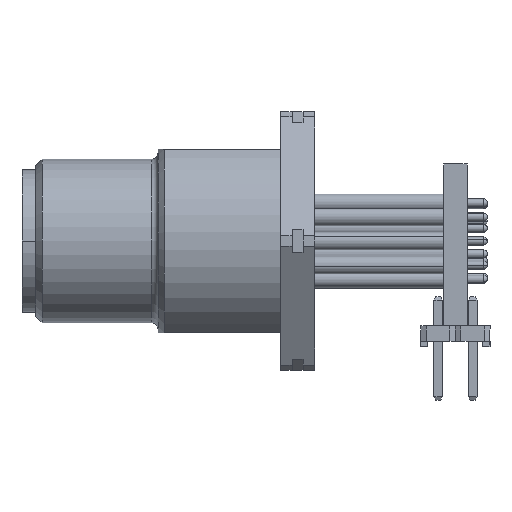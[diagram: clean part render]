
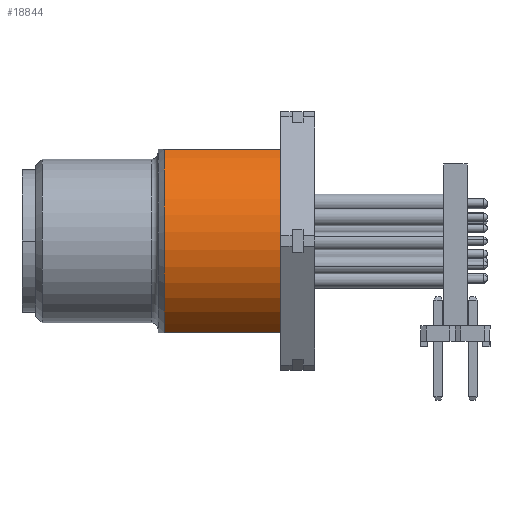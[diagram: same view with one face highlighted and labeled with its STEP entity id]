
A CAD part, left-side view. The second image highlights one B-rep face of the part: STEP entity #18844.
In plain terms, the highlighted cylindrical face has radius 7.6 mm (diameter 15.2 mm), a partial arc.
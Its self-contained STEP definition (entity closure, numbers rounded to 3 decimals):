
#414 = AXIS2_PLACEMENT_3D ( 'NONE', #5380, #16336, #6975 ) ;
#628 = CARTESIAN_POINT ( 'NONE',  ( -3.492, 20.5, -6.75 ) ) ;
#823 = CARTESIAN_POINT ( 'NONE',  ( -3.492, 20.5, 6.75 ) ) ;
#1734 = DIRECTION ( 'NONE',  ( 0., 0., -1. ) ) ;
#2159 = EDGE_CURVE ( 'NONE', #15930, #17699, #5502, .T. ) ;
#2593 = DIRECTION ( 'NONE',  ( 0., 0., -1. ) ) ;
#4071 = CARTESIAN_POINT ( 'NONE',  ( 0., 2.5, 0. ) ) ;
#4253 = DIRECTION ( 'NONE',  ( 0., -1., 0. ) ) ;
#4673 = VECTOR ( 'NONE', #18171, 1000. ) ;
#4784 = CARTESIAN_POINT ( 'NONE',  ( -3.492, 2.5, -6.75 ) ) ;
#5380 = CARTESIAN_POINT ( 'NONE',  ( 0., 11.035, 0. ) ) ;
#5502 = CIRCLE ( 'NONE', #10149, 7.6 ) ;
#6116 = ORIENTED_EDGE ( 'NONE', *, *, #2159, .F. ) ;
#6975 = DIRECTION ( 'NONE',  ( 0., 0., -1. ) ) ;
#7233 = LINE ( 'NONE', #628, #15558 ) ;
#7491 = VERTEX_POINT ( 'NONE', #8411 ) ;
#8411 = CARTESIAN_POINT ( 'NONE',  ( -3.492, 11.035, 6.75 ) ) ;
#8759 = CARTESIAN_POINT ( 'NONE',  ( -3.492, 11.035, -6.75 ) ) ;
#10149 = AXIS2_PLACEMENT_3D ( 'NONE', #4071, #19213, #1734 ) ;
#11325 = EDGE_CURVE ( 'NONE', #7491, #15375, #19632, .T. ) ;
#12147 = AXIS2_PLACEMENT_3D ( 'NONE', #19938, #4253, #2593 ) ;
#13169 = ORIENTED_EDGE ( 'NONE', *, *, #14734, .T. ) ;
#13245 = DIRECTION ( 'NONE',  ( 0., -1., 0. ) ) ;
#14392 = FACE_OUTER_BOUND ( 'NONE', #19579, .T. ) ;
#14734 = EDGE_CURVE ( 'NONE', #15375, #17699, #7233, .T. ) ;
#15375 = VERTEX_POINT ( 'NONE', #8759 ) ;
#15558 = VECTOR ( 'NONE', #13245, 1000. ) ;
#15930 = VERTEX_POINT ( 'NONE', #18041 ) ;
#15950 = ORIENTED_EDGE ( 'NONE', *, *, #16332, .F. ) ;
#16332 = EDGE_CURVE ( 'NONE', #7491, #15930, #17190, .T. ) ;
#16336 = DIRECTION ( 'NONE',  ( 0., -1., 0. ) ) ;
#17190 = LINE ( 'NONE', #823, #4673 ) ;
#17699 = VERTEX_POINT ( 'NONE', #4784 ) ;
#18041 = CARTESIAN_POINT ( 'NONE',  ( -3.492, 2.5, 6.75 ) ) ;
#18058 = CYLINDRICAL_SURFACE ( 'NONE', #12147, 7.6 ) ;
#18171 = DIRECTION ( 'NONE',  ( 0., -1., 0. ) ) ;
#18844 = ADVANCED_FACE ( 'NONE', ( #14392 ), #18058, .T. ) ;
#19213 = DIRECTION ( 'NONE',  ( 0., -1., 0. ) ) ;
#19579 = EDGE_LOOP ( 'NONE', ( #13169, #6116, #15950, #20200 ) ) ;
#19632 = CIRCLE ( 'NONE', #414, 7.6 ) ;
#19938 = CARTESIAN_POINT ( 'NONE',  ( 0., 0., 0. ) ) ;
#20200 = ORIENTED_EDGE ( 'NONE', *, *, #11325, .T. ) ;
